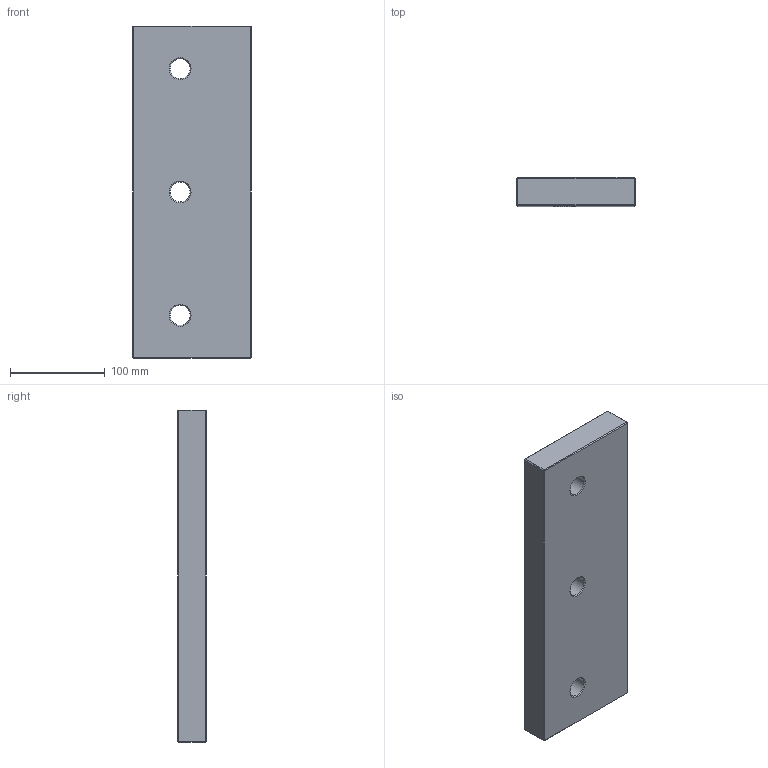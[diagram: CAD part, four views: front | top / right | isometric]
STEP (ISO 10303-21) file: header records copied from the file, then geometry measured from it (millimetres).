
FILE_DESCRIPTION(/* description */ ('Impex Ready, www.impex-ready.pl'),/* implementation_level */ '2;1');
FILE_NAME(/* name */ 'C:\Users\VIKKY\Nextcloud\SM\projekt 10 - części na stronę internetową\Pliki_3D_new\331 Płytki PG40\331 PG40_STEP\PG40.12530350.ipt.step',/* time_stamp */ '2021-12-19T19:01:22+01:00',/* author */ ('SM'),/* organization */ (''),/* preprocessor_version */ 'ST-DEVELOPER v18.1',/* originating_system */ 'Autodesk Inventor 2021',/* authorisation */ '');
FILE_SCHEMA (('AUTOMOTIVE_DESIGN { 1 0 10303 214 3 1 1 }'));
Length unit declared in the file: millimetre
Products named in the file (1): PG40.12530350
Bounding box: 125 x 30 x 350 mm (x, y, z)
Volume: 1280118.7 mm3; surface area: 118449.1 mm2
Topology: 1 solids, 1 shells, 36 faces, 75 edges, 41 vertices
Faces by surface type: plane 27, cone 6, cylinder 3
Full cylindrical faces by diameter (mm): 21 x3
Entity records: 1025 total; most frequent: DIRECTION 164, CARTESIAN_POINT 153, ORIENTED_EDGE 150, EDGE_CURVE 75, LINE 60, VECTOR 60, AXIS2_PLACEMENT_3D 52, EDGE_LOOP 42
